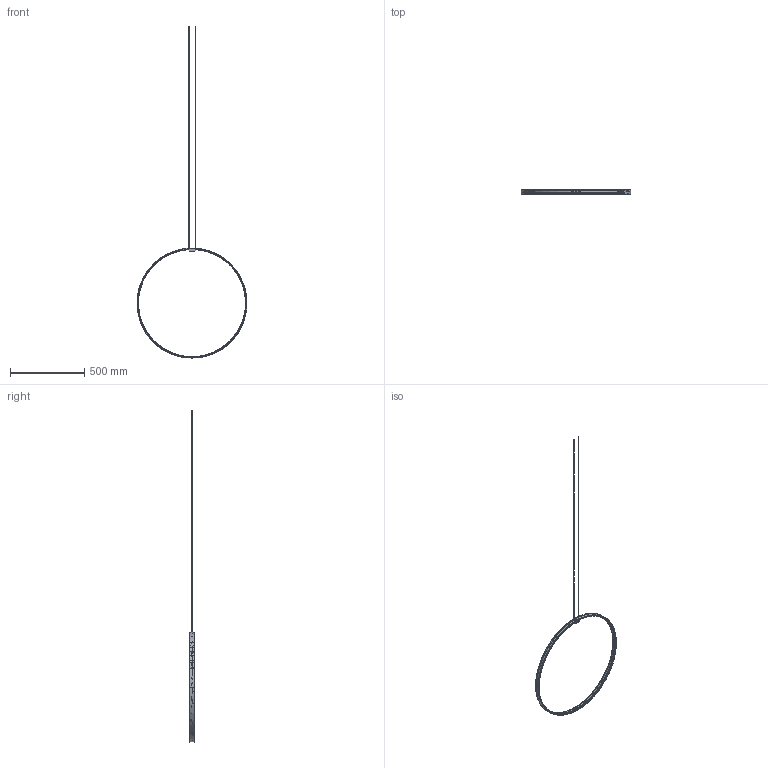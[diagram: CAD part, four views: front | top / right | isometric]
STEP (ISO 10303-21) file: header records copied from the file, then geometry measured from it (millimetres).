
FILE_DESCRIPTION(/* description */ (''),/* implementation_level */ '2;1');
FILE_NAME(/* name */ 'Zero Round Vertical M154__.075',/* time_stamp */ '2025-05-28T09:49:24+02:00',/* author */ (''),/* organization */ (''),/* preprocessor_version */ 'ST-DEVELOPER v16.5',/* originating_system */ '',/* authorisation */ '');
FILE_SCHEMA (('AUTOMOTIVE_DESIGN'));
Length unit declared in the file: millimetre
Products named in the file (7): Document; 3300.0148000.00 (profilo curvo Zero Round Vertical ALL 7,7x30mm D est.
 738mm)_3306.0148360.00; 3100.0026000.00 (schermo estruso Giplast 09PE79 PC 19x3,8mm per curva
 D int. 720mm)_3101.0026360.98; 3200.0200005.00 (copertura giunzione con foro M3 ACC 60,2x18,7mm H 23
mm sp 1)_3209.0200005.00; 4501.0009000.00 (cavo schermato FR5FH2R-FX 1xAWG20 trasparente)_4501.
0009150.00; 5402.0001000.00 (fune ACC 19 fili D 1,2mm con cilindro terminale 3x3m
m)_5402.0001150.00; countersunk flat head cross recess screw_iso_ISO 7046-1 - M3 x 6 - Z 
- 6N
Assembly tree (6 placements, depth 2):
  Document
    3300.0148000.00 (profilo curvo Zero Round Vertical ALL 7,7x30mm D est.
 738mm)_3306.0148360.00
    3100.0026000.00 (schermo estruso Giplast 09PE79 PC 19x3,8mm per curva
 D int. 720mm)_3101.0026360.98
    3200.0200005.00 (copertura giunzione con foro M3 ACC 60,2x18,7mm H 23
mm sp 1)_3209.0200005.00
    4501.0009000.00 (cavo schermato FR5FH2R-FX 1xAWG20 trasparente)_4501.
0009150.00
    5402.0001000.00 (fune ACC 19 fili D 1,2mm con cilindro terminale 3x3m
m)_5402.0001150.00
    countersunk flat head cross recess screw_iso_ISO 7046-1 - M3 x 6 - Z 
- 6N
Bounding box: 738 x 30 x 2230.95 mm (x, y, z)
Volume: 389729.9 mm3; surface area: 357428.6 mm2
Topology: 7 solids, 7 shells, 304 faces, 734 edges, 443 vertices
Faces by surface type: bspline 229, plane 75
Entity records: 17772 total; most frequent: CARTESIAN_POINT 13417, ORIENTED_EDGE 1462, EDGE_CURVE 731, VERTEX_POINT 443, B_SPLINE_CURVE_WITH_KNOTS 328, EDGE_LOOP 314, ADVANCED_FACE 304, FACE_OUTER_BOUND 304
